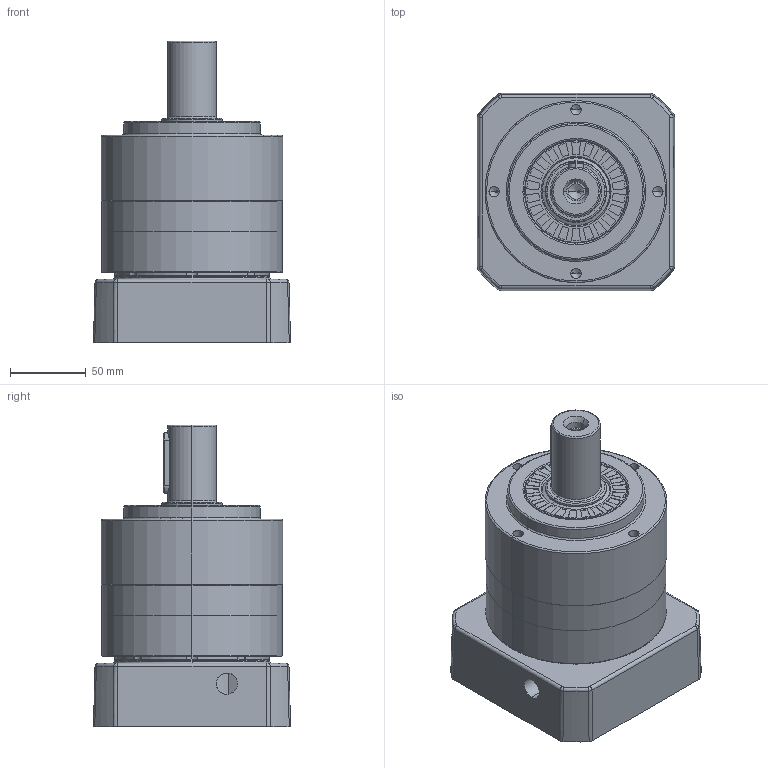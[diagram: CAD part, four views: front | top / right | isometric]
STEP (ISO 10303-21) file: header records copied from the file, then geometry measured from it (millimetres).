
FILE_DESCRIPTION (( 'STEP AP214' ), '1' );
FILE_NAME ('FE120D-L1-24-110-145-M8-64.STEP', '2021-04-25T01:44:01', ( '微软用户' ), ( '微软中国' ), 'SwSTEP 2.0', 'SolidWorks 2014', '' );
FILE_SCHEMA (( 'AUTOMOTIVE_DESIGN' ));
Length unit declared in the file: millimetre
Products named in the file (35): M5-12樓粟菜; 输出内齿圈壳体VRL120D; 输入锁紧环28x63.5x16; 蚐猾40x68x8; す瑩10X40; 怀堤俴陎殤VRL115D; 镂空输入法兰-110X44.5XM8; 输入太阳齿轮VRL115D-24.SLDPRT5; 输入端壳体VRL110D; M6-14樓粟菜; FE120D-L1-24-110-145-M8-64; M8-16
Assembly tree (23 placements, depth 2):
  M5-12樓粟菜
  M5-12樓粟菜
  M5-12樓粟菜
  输入锁紧环28x63.5x16
  蚐猾40x68x8
Bounding box: 130 x 130 x 199 mm (x, y, z)
Volume: 1407909.7 mm3; surface area: 240490.5 mm2
Topology: 9 solids, 37 shells, 1371 faces, 3222 edges, 1912 vertices
Faces by surface type: plane 410, bspline 382, cylinder 308, cone 208, torus 32, sphere 31
Entity records: 45958 total; most frequent: CARTESIAN_POINT 23575, ORIENTED_EDGE 4752, DIRECTION 4142, EDGE_CURVE 2383, AXIS2_PLACEMENT_3D 1697, VERTEX_POINT 1423, EDGE_LOOP 1166, ADVANCED_FACE 1055
